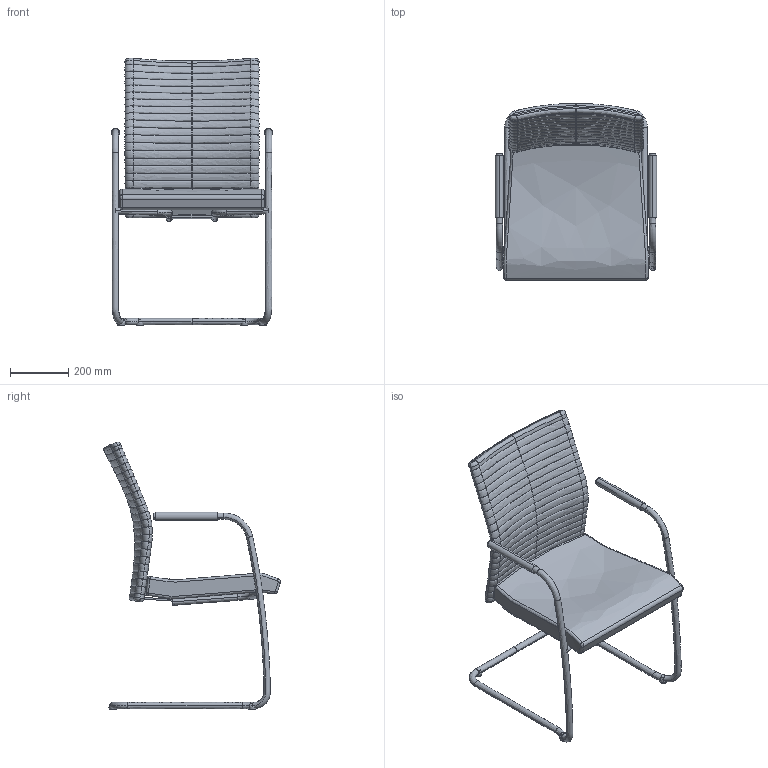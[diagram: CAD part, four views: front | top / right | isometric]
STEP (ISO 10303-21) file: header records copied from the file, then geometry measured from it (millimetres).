
FILE_DESCRIPTION(/* description */ (''),/* implementation_level */ '2;1');
FILE_NAME(/* name */ 'EL6148~1',/* time_stamp */ '2017-07-18T23:42:21+02:00',/* author */ (''),/* organization */ (''),/* preprocessor_version */ 'ST-DEVELOPER v15',/* originating_system */ '',/* authorisation */ '');
FILE_SCHEMA (('CONFIG_CONTROL_DESIGN'));
Length unit declared in the file: millimetre
Products named in the file (1): Document
Bounding box: 553.95 x 607.36 x 919.67 mm (x, y, z)
Volume: 14982744.3 mm3; surface area: 1556963 mm2
Topology: 6 solids, 14 shells, 318 faces, 687 edges, 392 vertices
Faces by surface type: bspline 290, plane 28
Entity records: 26843 total; most frequent: CARTESIAN_POINT 22651, ORIENTED_EDGE 1252, EDGE_CURVE 684, B_SPLINE_CURVE_WITH_KNOTS 497, VERTEX_POINT 386, ADVANCED_FACE 318, FACE_OUTER_BOUND 318, EDGE_LOOP 318
